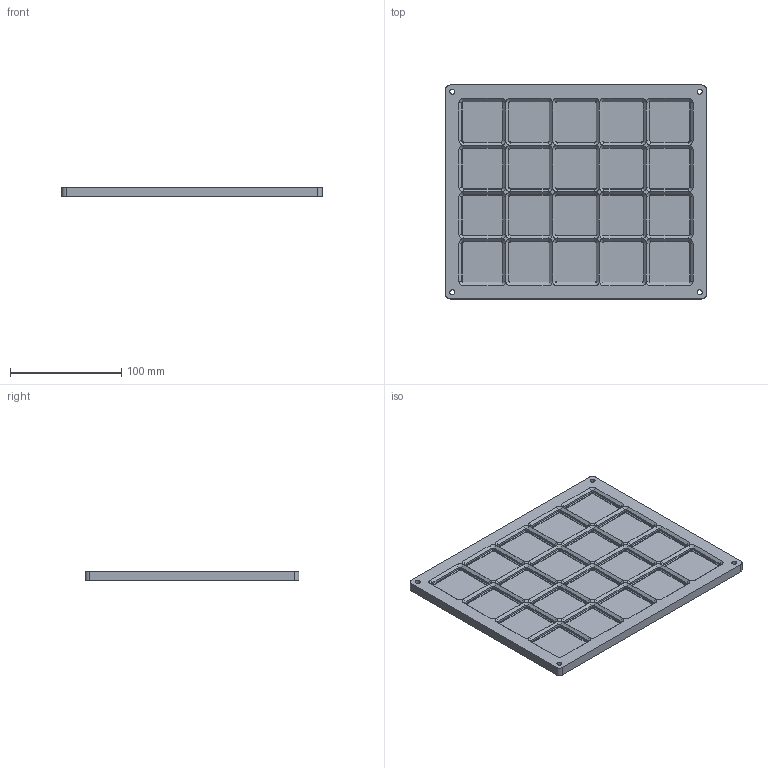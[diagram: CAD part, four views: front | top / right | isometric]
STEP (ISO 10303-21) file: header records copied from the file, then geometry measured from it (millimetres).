
FILE_DESCRIPTION(('Open CASCADE Model'),'2;1');
FILE_NAME('Open CASCADE Shape Model','2026-11-03T17:57:14',('Author'),( 'Open CASCADE'),'Open CASCADE STEP processor 8.0','build123d', 'Unknown');
FILE_SCHEMA(('AUTOMOTIVE_DESIGN { 1 0 10303 214 1 1 1 1 }'));
Length unit declared in the file: millimetre
Products named in the file (2): =>[0:1:1:2]; COMPOUND
Assembly tree (1 placements, depth 2):
  =>[0:1:1:2]
    COMPOUND
Bounding box: 234 x 192 x 8.2 mm (x, y, z)
Volume: 220240.6 mm3; surface area: 106969.8 mm2
Topology: 1 solids, 1 shells, 690 faces, 1453 edges, 766 vertices
Faces by surface type: plane 358, cylinder 168, cone 164
Full cylindrical faces by diameter (mm): 4.5 x4
Entity records: 36414 total; most frequent: CARTESIAN_POINT 7429, DIRECTION 5351, LINE 3111, VECTOR 3111, ORIENTED_EDGE 2906, PCURVE 2906, DEFINITIONAL_REPRESENTATION 2906, EDGE_CURVE 1453
